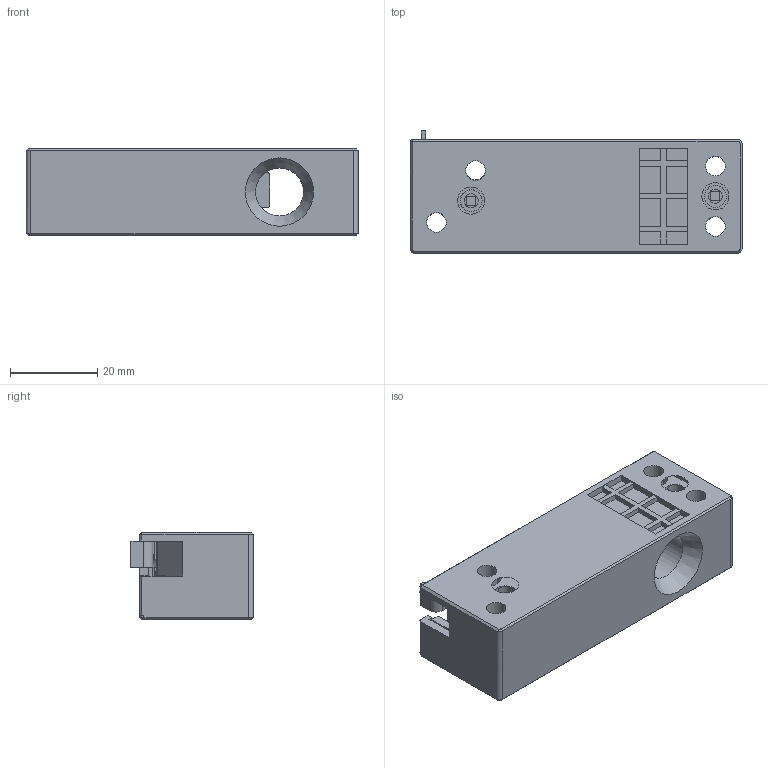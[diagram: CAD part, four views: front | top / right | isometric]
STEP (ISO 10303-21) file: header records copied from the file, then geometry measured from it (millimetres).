
FILE_DESCRIPTION(/* description */ (''),/* implementation_level */ '2;1');
FILE_NAME(/* name */ 'C:\Users\1\Desktop\3д упр\Ш20.00.СБ. 01.stp',/* time_stamp */ '2021-07-15T14:27:08+03:00',/* author */ ('arch'),/* organization */ (''),/* preprocessor_version */ 'ST-DEVELOPER v18',/* originating_system */ 'Autodesk Inventor 2020',/* authorisation */ '');
FILE_SCHEMA (('AUTOMOTIVE_DESIGN { 1 0 10303 214 3 1 1 }'));
Length unit declared in the file: millimetre
Products named in the file (1): Ш20.00.СБ. 01
Bounding box: 76.06 x 28 x 20 mm (x, y, z)
Volume: 19991.2 mm3; surface area: 22557.3 mm2
Topology: 1 solids, 5 shells, 581 faces, 1604 edges, 1038 vertices
Faces by surface type: plane 461, cylinder 93, cone 20, torus 5, sphere 2
Full cylindrical faces by diameter (mm): 1.6 x1, 2 x3, 2.1 x1, 2.5 x1, 3.2 x2, 4 x1, 4.1 x1, 4.5 x5, 5 x3, 5.5 x1, 6.5 x5, 8 x3, 11 x1, 15.6 x1
Entity records: 19160 total; most frequent: CARTESIAN_POINT 3350, ORIENTED_EDGE 3214, DIRECTION 3049, EDGE_CURVE 1607, LINE 1283, VECTOR 1283, VERTEX_POINT 1038, AXIS2_PLACEMENT_3D 883
